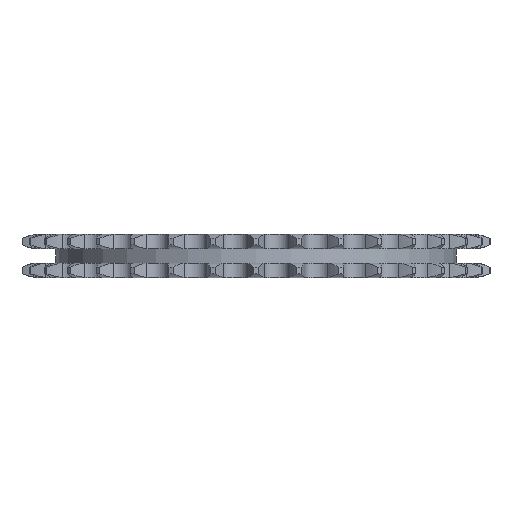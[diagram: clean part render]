
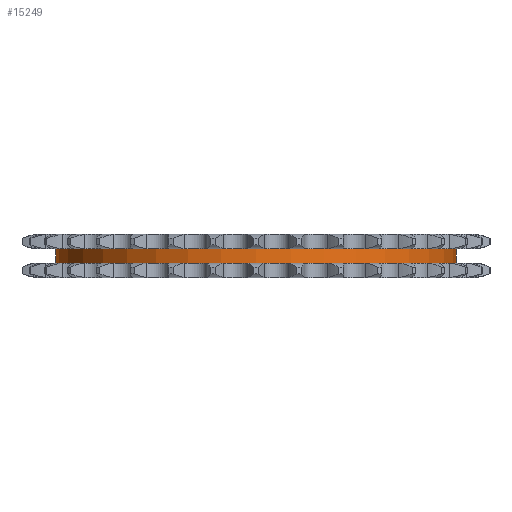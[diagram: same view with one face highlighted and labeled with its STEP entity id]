
A CAD part, left-side view. The second image highlights one B-rep face of the part: STEP entity #15249.
In plain terms, the highlighted cylindrical face has radius 38.352 mm (diameter 76.704 mm), a partial arc.
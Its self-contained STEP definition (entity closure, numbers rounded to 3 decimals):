
#1754=DIRECTION('',(0.,0.,-1.));
#1755=VECTOR('',#1754,2.7);
#1756=CARTESIAN_POINT('',(0.,38.352,1.35));
#1757=LINE('',#1756,#1755);
#1761=CARTESIAN_POINT('',(0.,0.,1.35));
#1762=DIRECTION('',(0.,0.,1.));
#1763=DIRECTION('',(0.,1.,0.));
#1764=AXIS2_PLACEMENT_3D('',#1761,#1762,#1763);
#1769=DIRECTION('',(0.,0.,-1.));
#1770=VECTOR('',#1769,2.7);
#1771=CARTESIAN_POINT('',(0.,-38.352,1.35));
#1772=LINE('',#1771,#1770);
#1776=CARTESIAN_POINT('',(0.,0.,-1.35));
#1777=DIRECTION('',(0.,0.,1.));
#1778=DIRECTION('',(0.,1.,0.));
#1779=AXIS2_PLACEMENT_3D('',#1776,#1777,#1778);
#11896=CARTESIAN_POINT('',(0.,38.352,1.35));
#11897=CARTESIAN_POINT('',(0.,38.352,-1.35));
#11898=VERTEX_POINT('',#11896);
#11899=VERTEX_POINT('',#11897);
#11900=CARTESIAN_POINT('',(0.,-38.352,1.35));
#11901=CARTESIAN_POINT('',(0.,-38.352,-1.35));
#11902=VERTEX_POINT('',#11900);
#11903=VERTEX_POINT('',#11901);
#15237=CARTESIAN_POINT('',(0.,0.,1.485));
#15238=DIRECTION('',(0.,0.,-1.));
#15239=DIRECTION('',(0.,-1.,0.));
#15240=AXIS2_PLACEMENT_3D('',#15237,#15238,#15239);
#15241=CYLINDRICAL_SURFACE('',#15240,38.352);
#15242=ORIENTED_EDGE('',*,*,#15227,.F.);
#15243=ORIENTED_EDGE('',*,*,#15217,.T.);
#15244=ORIENTED_EDGE('',*,*,#15231,.T.);
#15246=ORIENTED_EDGE('',*,*,#15245,.F.);
#15247=EDGE_LOOP('',(#15242,#15243,#15244,#15246));
#15248=FACE_OUTER_BOUND('',#15247,.F.);
#15249=ADVANCED_FACE('',(#15248),#15241,.T.);
#1765=CIRCLE('',#1764,38.352);
#1780=CIRCLE('',#1779,38.352);
#15217=EDGE_CURVE('',#11898,#11902,#1765,.T.);
#15227=EDGE_CURVE('',#11898,#11899,#1757,.T.);
#15231=EDGE_CURVE('',#11902,#11903,#1772,.T.);
#15245=EDGE_CURVE('',#11899,#11903,#1780,.T.);
